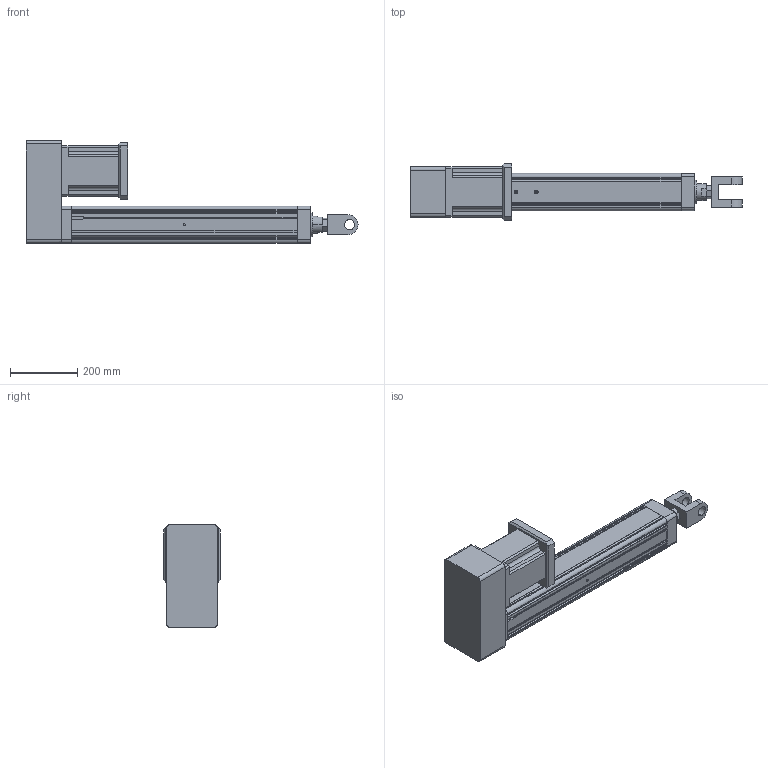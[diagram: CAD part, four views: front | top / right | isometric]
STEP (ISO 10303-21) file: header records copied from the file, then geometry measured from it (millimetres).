
FILE_DESCRIPTION (( 'STEP AP203' ), '1' );
FILE_NAME ('YRJ110-L500-H1K4.STEP', '2020-01-04T05:58:11', ( 'User' ), ( 'China' ), 'SwSTEP 2.0', 'SolidWorks 2016', '' );
FILE_SCHEMA (( 'CONFIG_CONTROL_DESIGN' ));
Length unit declared in the file: millimetre
Products named in the file (7): YRJ110-L500-H1K4; 095-100俴最倰第; H1-110-1; H1-110-2; 萇儂碟-110; 142熬厒儂; K4-110
Assembly tree (6 placements, depth 2):
  YRJ110-L500-H1K4
    095-100俴最倰第
    H1-110-1
    H1-110-2
    萇儂碟-110
    142熬厒儂
    K4-110
Bounding box: 986 x 168 x 305.5 mm (x, y, z)
Volume: 12823310.9 mm3; surface area: 1098665.5 mm2
Topology: 6 solids, 6 shells, 331 faces, 908 edges, 581 vertices
Faces by surface type: plane 176, cylinder 120, cone 35
Entity records: 11402 total; most frequent: CARTESIAN_POINT 2145, DIRECTION 1797, ORIENTED_EDGE 1768, EDGE_CURVE 884, VECTOR 607, LINE 607, AXIS2_PLACEMENT_3D 595, VERTEX_POINT 581
